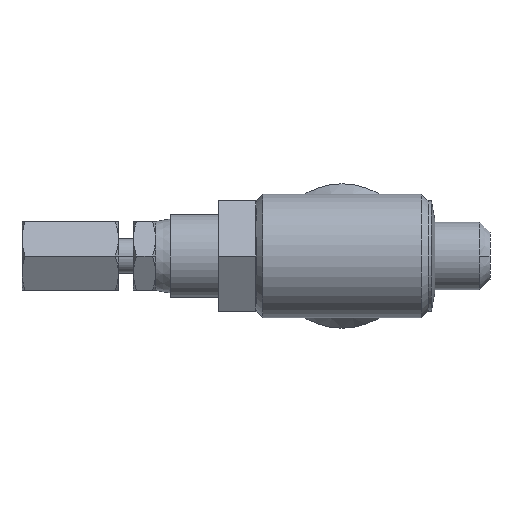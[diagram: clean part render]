
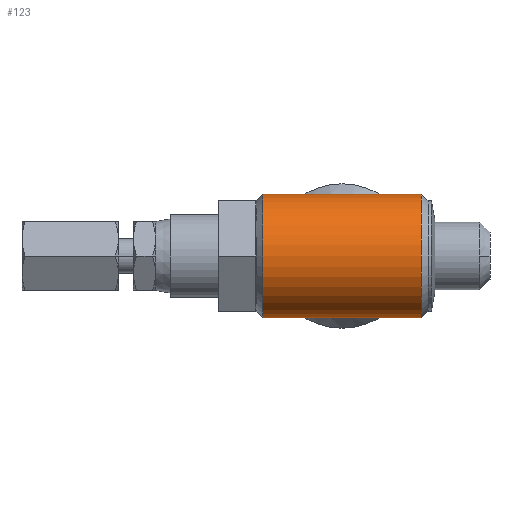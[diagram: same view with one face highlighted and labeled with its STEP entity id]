
A CAD part, left-side view. The second image highlights one B-rep face of the part: STEP entity #123.
In plain terms, the highlighted cylindrical face has radius 4.5 mm (diameter 9 mm), a partial arc.
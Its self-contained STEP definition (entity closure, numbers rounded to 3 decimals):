
#84 = CIRCLE ( 'NONE', #3599, 4.5 ) ;
#123 = ADVANCED_FACE ( 'NONE', ( #1394 ), #4054, .T. ) ;
#256 = DIRECTION ( 'NONE',  ( 0., 1., 0. ) ) ;
#565 = VECTOR ( 'NONE', #3618, 1000. ) ;
#614 = EDGE_CURVE ( 'NONE', #3264, #1199, #1446, .T. ) ;
#1199 = VERTEX_POINT ( 'NONE', #4459 ) ;
#1394 = FACE_OUTER_BOUND ( 'NONE', #3660, .T. ) ;
#1446 = LINE ( 'NONE', #1534, #565 ) ;
#1467 = ORIENTED_EDGE ( 'NONE', *, *, #614, .F. ) ;
#1534 = CARTESIAN_POINT ( 'NONE',  ( 0., 3.5, 4.5 ) ) ;
#1647 = CIRCLE ( 'NONE', #2795, 4.5 ) ;
#1807 = CARTESIAN_POINT ( 'NONE',  ( 0., 16.5, -4.5 ) ) ;
#2011 = CARTESIAN_POINT ( 'NONE',  ( 0., 3.5, 0. ) ) ;
#2147 = ORIENTED_EDGE ( 'NONE', *, *, #3163, .T. ) ;
#2195 = ORIENTED_EDGE ( 'NONE', *, *, #3023, .T. ) ;
#2235 = CARTESIAN_POINT ( 'NONE',  ( 0., 5., -4.5 ) ) ;
#2367 = CARTESIAN_POINT ( 'NONE',  ( 0., 5., 0. ) ) ;
#2427 = CARTESIAN_POINT ( 'NONE',  ( 0., 16.5, 0. ) ) ;
#2716 = DIRECTION ( 'NONE',  ( 0., 0., -1. ) ) ;
#2779 = LINE ( 'NONE', #3964, #3553 ) ;
#2795 = AXIS2_PLACEMENT_3D ( 'NONE', #2367, #256, #2716 ) ;
#2840 = AXIS2_PLACEMENT_3D ( 'NONE', #2011, #4123, #3795 ) ;
#2946 = DIRECTION ( 'NONE',  ( 0., -1., 0. ) ) ;
#3023 = EDGE_CURVE ( 'NONE', #3413, #1199, #1647, .T. ) ;
#3163 = EDGE_CURVE ( 'NONE', #3264, #3567, #84, .T. ) ;
#3264 = VERTEX_POINT ( 'NONE', #3269 ) ;
#3269 = CARTESIAN_POINT ( 'NONE',  ( 0., 16.5, 4.5 ) ) ;
#3390 = EDGE_CURVE ( 'NONE', #3567, #3413, #2779, .T. ) ;
#3413 = VERTEX_POINT ( 'NONE', #2235 ) ;
#3531 = DIRECTION ( 'NONE',  ( 0., -1., 0. ) ) ;
#3553 = VECTOR ( 'NONE', #2946, 1000. ) ;
#3567 = VERTEX_POINT ( 'NONE', #1807 ) ;
#3599 = AXIS2_PLACEMENT_3D ( 'NONE', #2427, #3531, #4197 ) ;
#3618 = DIRECTION ( 'NONE',  ( 0., -1., 0. ) ) ;
#3660 = EDGE_LOOP ( 'NONE', ( #1467, #2147, #4547, #2195 ) ) ;
#3795 = DIRECTION ( 'NONE',  ( 0., 0., -1. ) ) ;
#3964 = CARTESIAN_POINT ( 'NONE',  ( 0., 3.5, -4.5 ) ) ;
#4054 = CYLINDRICAL_SURFACE ( 'NONE', #2840, 4.5 ) ;
#4123 = DIRECTION ( 'NONE',  ( 0., -1., 0. ) ) ;
#4197 = DIRECTION ( 'NONE',  ( 0., 0., -1. ) ) ;
#4459 = CARTESIAN_POINT ( 'NONE',  ( 0., 5., 4.5 ) ) ;
#4547 = ORIENTED_EDGE ( 'NONE', *, *, #3390, .T. ) ;
